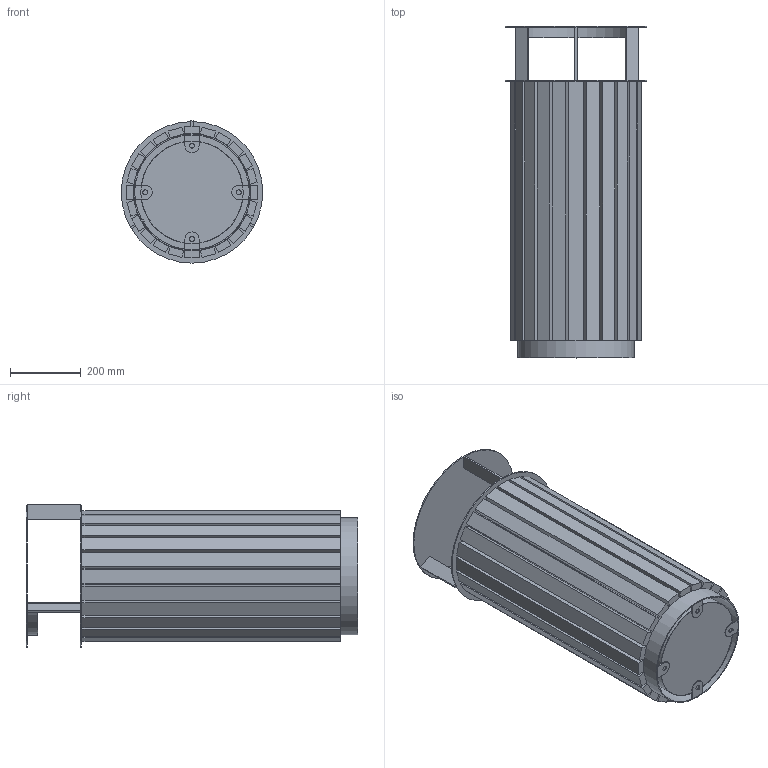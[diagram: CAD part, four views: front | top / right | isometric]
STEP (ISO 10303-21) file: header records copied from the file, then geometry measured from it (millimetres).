
FILE_DESCRIPTION (( 'STEP AP203' ), '1' );
FILE_NAME ('迼縺 verta-tc-1-瀁.STEP', '2024-09-20T09:17:00', ( '' ), ( '' ), 'SwSTEP 2.0', 'SolidWorks 2020', '' );
FILE_SCHEMA (( 'CONFIG_CONTROL_DESIGN' ));
Length unit declared in the file: millimetre
Products named in the file (1): 迼縺 verta-tc-1-瀁
Bounding box: 400 x 938 x 402 mm (x, y, z)
Volume: 15763038.1 mm3; surface area: 4401008.3 mm2
Topology: 38 solids, 38 shells, 218 faces, 426 edges, 284 vertices
Faces by surface type: plane 194, cylinder 24
Full cylindrical faces by diameter (mm): 14 x4, 288.4 x1, 290 x2, 324 x3, 330 x2, 400 x2
Entity records: 5463 total; most frequent: CARTESIAN_POINT 915, DIRECTION 898, ORIENTED_EDGE 824, EDGE_CURVE 412, LINE 364, VECTOR 364, VERTEX_POINT 284, AXIS2_PLACEMENT_3D 267
